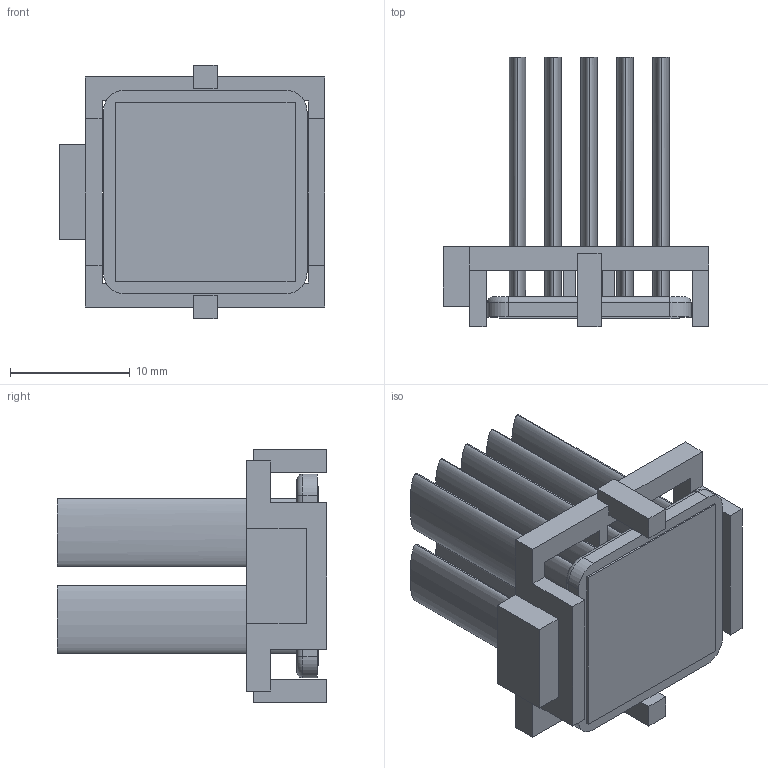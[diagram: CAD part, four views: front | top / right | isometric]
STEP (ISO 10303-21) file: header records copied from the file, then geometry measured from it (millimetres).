
FILE_DESCRIPTION (( 'STEP AP214' ), '1' );
FILE_NAME ('INM17001-22W-1.7O.STEP', '2023-03-01T23:07:37', ( '' ), ( '' ), 'SwSTEP 2.0', 'SolidWorks 2020', '' );
FILE_SCHEMA (( 'AUTOMOTIVE_DESIGN' ));
Length unit declared in the file: millimetre
Products named in the file (1): INM17001-22W-1.7O
Bounding box: 22.2 x 22.5 x 21.2 mm (x, y, z)
Volume: 2338.5 mm3; surface area: 4613.3 mm2
Topology: 3 solids, 3 shells, 99 faces, 244 edges, 160 vertices
Faces by surface type: plane 67, bspline 20, cylinder 8, torus 4
Entity records: 4079 total; most frequent: CARTESIAN_POINT 764, ORIENTED_EDGE 488, DIRECTION 384, EDGE_CURVE 244, LINE 184, VECTOR 184, VERTEX_POINT 160, EDGE_LOOP 110
